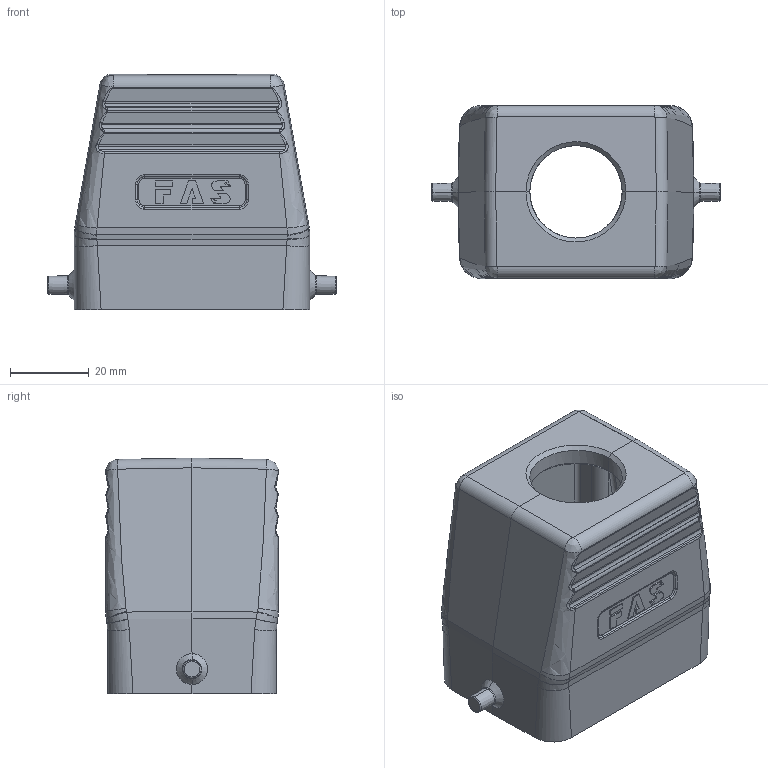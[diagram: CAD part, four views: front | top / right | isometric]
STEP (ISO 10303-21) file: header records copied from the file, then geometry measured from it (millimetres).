
FILE_DESCRIPTION (( 'STEP AP203' ), '1' );
FILE_NAME ('H6B-TG-M25.STEP', '2020-07-01T05:16:35', ( '' ), ( '' ), 'SwSTEP 2.0', 'SolidWorks 2016', '' );
FILE_SCHEMA (( 'CONFIG_CONTROL_DESIGN' ));
Length unit declared in the file: millimetre
Products named in the file (1): H6B-TG-M25
Bounding box: 73.4 x 44 x 60 mm (x, y, z)
Volume: 51384.4 mm3; surface area: 24173.2 mm2
Topology: 1 solids, 1 shells, 501 faces, 1217 edges, 742 vertices
Faces by surface type: plane 166, bspline 158, cylinder 143, cone 34
Entity records: 23712 total; most frequent: CARTESIAN_POINT 13341, ORIENTED_EDGE 2434, DIRECTION 1714, EDGE_CURVE 1217, VERTEX_POINT 742, AXIS2_PLACEMENT_3D 588, LINE 538, VECTOR 538
